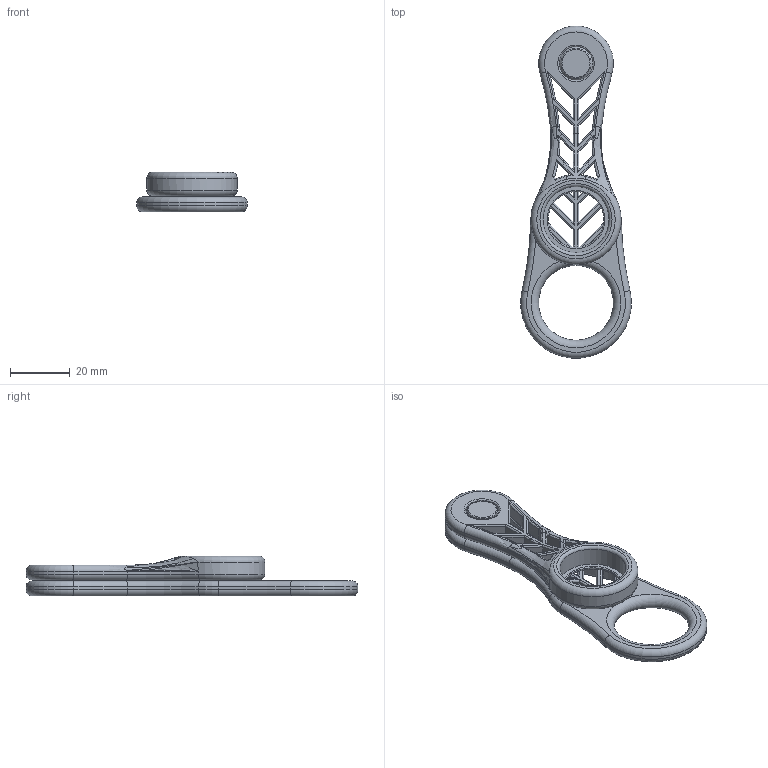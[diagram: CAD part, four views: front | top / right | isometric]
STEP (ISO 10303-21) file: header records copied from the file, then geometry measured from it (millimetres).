
FILE_DESCRIPTION(/* description */ (''),/* implementation_level */ '2;1');
FILE_NAME(/* name */ 'Finger Slinger.step',/* time_stamp */ '2023-07-30T20:19:16-04:00',/* author */ (''),/* organization */ (''),/* preprocessor_version */ 'ST-DEVELOPER v19.2',/* originating_system */ 'Autodesk Translation Framework v12.6.0.85',/* authorisation */ '');
FILE_SCHEMA (('AUTOMOTIVE_DESIGN { 1 0 10303 214 3 1 1 }'));
Length unit declared in the file: millimetre
Products named in the file (4): Finger Slinger; Secondary Arm; Rotator; Base Arm
Assembly tree (3 placements, depth 2):
  Finger Slinger
    Secondary Arm
    Rotator
    Base Arm
Bounding box: 36.94 x 110.93 x 13.3 mm (x, y, z)
Volume: 14474.8 mm3; surface area: 12017.9 mm2
Topology: 3 solids, 3 shells, 313 faces, 805 edges, 484 vertices
Faces by surface type: cylinder 136, plane 72, torus 64, bspline 37, cone 4
Full cylindrical faces by diameter (mm): 10 x2, 11.3 x2, 18.659 x1, 22.06 x1
Entity records: 11682 total; most frequent: CARTESIAN_POINT 4125, ORIENTED_EDGE 1606, DIRECTION 1508, EDGE_CURVE 803, AXIS2_PLACEMENT_3D 592, VERTEX_POINT 484, EDGE_LOOP 351, LINE 324
